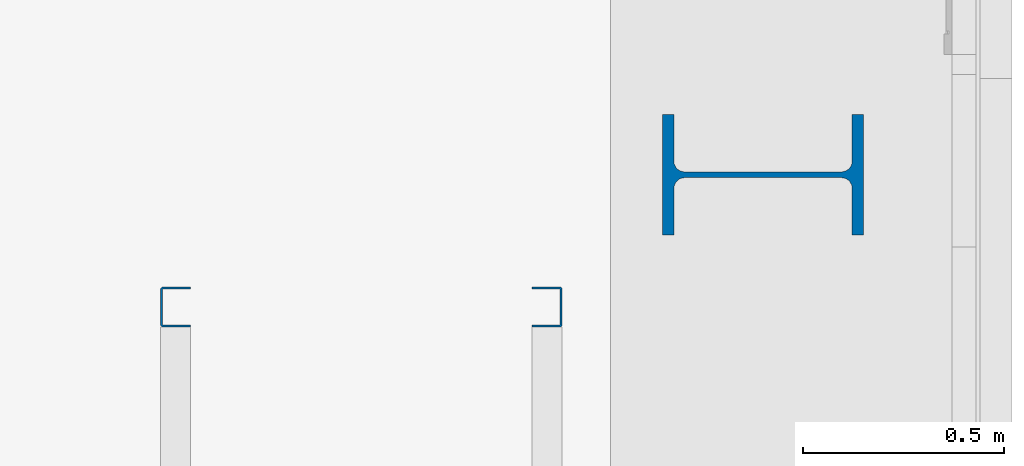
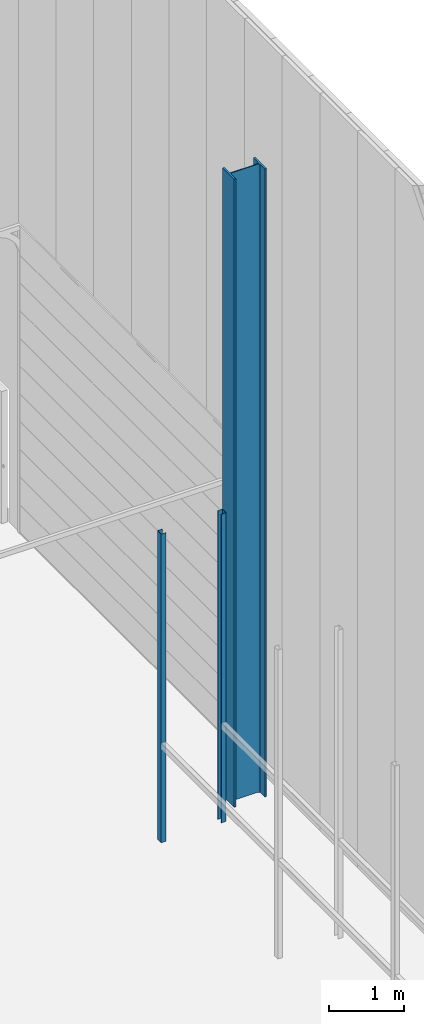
# One storey, part 43 of 302: 3 columns.
"""IFC2X3 building model written with IfcOpenShell, lengths in metres."""

from ifc_helpers import new_model, entity, si_unit, converted_unit, derived_unit, direction, frame, frame_2d, origin, place, context, subcontext, project, spatial, polyline, circle_curve, parameter, trimmed, segment, composite_curve, i_section, outline, extrude, source, transform, mapped, material, type_object, type_shapes, element, save


model = new_model("IFC2X3")

# Units and contexts
model_context = context("Model", 3, precision=1e-05, world=origin(), true_north=direction((6.12303176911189e-17, 1.0)))
body_context = subcontext(model_context, "Body", "Model", "MODEL_VIEW")
ifc_project = project(units=[si_unit("LENGTHUNIT", "METRE"), si_unit("AREAUNIT", "SQUARE_METRE"), si_unit("VOLUMEUNIT", "CUBIC_METRE"), converted_unit("PLANEANGLEUNIT", "DEGREE", entity("IfcRatioMeasure", 0.0174532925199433), si_unit("PLANEANGLEUNIT", "RADIAN"), dimensions=[0, 0, 0, 0, 0, 0, 0]), si_unit("MASSUNIT", "GRAM", prefix="KILO"), derived_unit("MASSDENSITYUNIT", [(si_unit("MASSUNIT", "GRAM", prefix="KILO"), 1), (si_unit("LENGTHUNIT", "METRE"), -3)]), derived_unit("MOMENTOFINERTIAUNIT", [(si_unit("LENGTHUNIT", "METRE"), 4)]), si_unit("TIMEUNIT", "SECOND"), si_unit("FREQUENCYUNIT", "HERTZ"), si_unit("THERMODYNAMICTEMPERATUREUNIT", "DEGREE_CELSIUS"), derived_unit("THERMALTRANSMITTANCEUNIT", [(si_unit("MASSUNIT", "GRAM", prefix="KILO"), 1), (si_unit("THERMODYNAMICTEMPERATUREUNIT", "KELVIN"), -1), (si_unit("TIMEUNIT", "SECOND"), -3)]), derived_unit("VOLUMETRICFLOWRATEUNIT", [(si_unit("LENGTHUNIT", "METRE"), 3), (si_unit("TIMEUNIT", "SECOND"), -1)]), si_unit("ELECTRICCURRENTUNIT", "AMPERE"), si_unit("ELECTRICVOLTAGEUNIT", "VOLT"), si_unit("POWERUNIT", "WATT"), si_unit("FORCEUNIT", "NEWTON", prefix="KILO"), si_unit("ILLUMINANCEUNIT", "LUX"), si_unit("LUMINOUSFLUXUNIT", "LUMEN"), si_unit("LUMINOUSINTENSITYUNIT", "CANDELA"), derived_unit("USERDEFINED", [(si_unit("MASSUNIT", "GRAM", prefix="KILO"), -1), (si_unit("LENGTHUNIT", "METRE"), -2), (si_unit("TIMEUNIT", "SECOND"), 3), (si_unit("LUMINOUSFLUXUNIT", "LUMEN"), 1)]), derived_unit("LINEARVELOCITYUNIT", [(si_unit("LENGTHUNIT", "METRE"), 1), (si_unit("TIMEUNIT", "SECOND"), -1)]), si_unit("PRESSUREUNIT", "PASCAL"), derived_unit("USERDEFINED", [(si_unit("LENGTHUNIT", "METRE"), -2), (si_unit("MASSUNIT", "GRAM", prefix="KILO"), 1), (si_unit("TIMEUNIT", "SECOND"), -2)]), derived_unit("LINEARFORCEUNIT", [(si_unit("MASSUNIT", "GRAM", prefix="KILO"), 1), (si_unit("LENGTHUNIT", "METRE"), 1), (si_unit("TIMEUNIT", "SECOND"), -2), (si_unit("LENGTHUNIT", "METRE"), -1)]), derived_unit("PLANARFORCEUNIT", [(si_unit("MASSUNIT", "GRAM", prefix="KILO"), 1), (si_unit("LENGTHUNIT", "METRE"), 1), (si_unit("TIMEUNIT", "SECOND"), -2), (si_unit("LENGTHUNIT", "METRE"), -2)])], contexts=[model_context])

# Site, building, storey
site_placement = place(None, origin())
site = spatial("IfcSite", under=ifc_project, at=site_placement, Name="Default", CompositionType="ELEMENT")
building_placement = place(site_placement, origin())
building = spatial("IfcBuilding", under=site, at=building_placement, CompositionType="ELEMENT")
storey_placement = place(building_placement, frame((0.0, 0.0, -1.3)))
storey = spatial("IfcBuildingStorey", under=building, at=storey_placement, Name="00_EG", CompositionType="ELEMENT", Elevation=-1.3)

# Columns
ifc_material = material(Name="Metall - Baustahl S235")
column_type_1 = type_object("IfcColumnType", Name="HEB Stütze:HEB 500", PredefinedType="COLUMN", material=ifc_material)
shared_shape_1 = source(origin(), body_context, "Body", "SweptSolid", [
    extrude(i_section(OverallWidth=0.3, OverallDepth=0.5, WebThickness=0.0145, FlangeThickness=0.028, FilletRadius=0.027, at=frame_2d((0.0, -2.77555756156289e-17), x_axis=(0.0, 1.0))), frame((0.0, 0.0, -0.0300000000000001), z_axis=(0.0, 0.0, 1.0), x_axis=(0.0, -1.0, 0.0)), (0.0, 0.0, 1.0), 10.175),
])
type_shapes(column_type_1, [shared_shape_1])
column_1_placement = place(storey_placement, frame((-177.890111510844, 64.928088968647, 1.3), z_axis=(0.0, 0.0, 1.0), x_axis=(0.0, -1.0, 0.0)))
element("IfcColumn", 1, at=column_1_placement, inside=storey, type_object=column_type_1, material=ifc_material, Name="HEB Stütze:HEB 500", ObjectType="HEB Stütze:HEB 500", context=body_context, shape_type="MappedRepresentation", body=[
    mapped(shared_shape_1, transform((0.0, 0.0, 0.0), scale=1.0)),
])
column_type_2 = type_object("IfcColumnType", Name="Leichter Stahl Schlossschrauben Stütze:C 100", PredefinedType="COLUMN", material=ifc_material)
shared_shape_2 = source(origin(), body_context, "Body", "SweptSolid", [
    extrude(outline(composite_curve([segment(polyline([(-0.0469749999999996, -0.0499999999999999), (0.0214500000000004, -0.0499999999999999)]), True, "CONTINUOUS"), segment(trimmed(circle_curve(frame_2d((0.0214500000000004, -0.0434249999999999), x_axis=(0.0, -1.0)), 0.00657500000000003), [parameter(0.0)], [parameter(89.9999999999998)], True, "PARAMETER"), True, "CONTINUOUS"), segment(polyline([(0.0280250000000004, -0.0434249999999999), (0.0280250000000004, 0.0434250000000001)]), True, "CONTINUOUS"), segment(trimmed(circle_curve(frame_2d((0.0214500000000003, 0.0434250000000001), x_axis=(1.0, 0.0)), 0.0065750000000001), [parameter(0.0)], [parameter(89.9999999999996)], True, "PARAMETER"), True, "CONTINUOUS"), segment(polyline([(0.0214500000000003, 0.0500000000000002), (-0.0469750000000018, 0.0500000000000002)]), True, "CONTINUOUS"), segment(polyline([(-0.0469750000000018, 0.0500000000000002), (-0.0469750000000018, 0.0450000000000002)]), True, "CONTINUOUS"), segment(polyline([(-0.0469750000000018, 0.0450000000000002), (0.0214500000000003, 0.0450000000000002)]), True, "CONTINUOUS"), segment(trimmed(circle_curve(frame_2d((0.0214500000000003, 0.0434249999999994), x_axis=(0.0, 1.0)), 0.00157500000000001), [parameter(269.999999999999)], [parameter(0.0)], True, "PARAMETER"), False, "CONTINUOUS"), segment(polyline([(0.0230250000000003, 0.0434249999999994), (0.0230250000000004, -0.0434249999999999)]), True, "CONTINUOUS"), segment(trimmed(circle_curve(frame_2d((0.0214500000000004, -0.0434249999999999), x_axis=(1.0, 0.0)), 0.00157500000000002), [parameter(270.0)], [parameter(0.0)], True, "PARAMETER"), False, "CONTINUOUS"), segment(polyline([(0.0214500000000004, -0.0449999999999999), (-0.0469749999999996, -0.0449999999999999)]), True, "CONTINUOUS"), segment(polyline([(-0.0469749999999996, -0.0449999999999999), (-0.0469749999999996, -0.0499999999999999)]), True, "CONTINUOUS")], self_intersect=False)), frame((0.0499999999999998, 0.0280250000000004, -0.0300000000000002), z_axis=(0.0, 0.0, 1.0), x_axis=(0.0, -1.0, 0.0)), (0.0, 0.0, 1.0), 5.0),
])
type_shapes(column_type_2, [shared_shape_2])
column_2_placement = place(storey_placement, frame((-179.390111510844, 64.6488562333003, 1.3), z_axis=(0.0, 0.0, 1.0), x_axis=(0.0, -1.0, 0.0)))
element("IfcColumn", 2, at=column_2_placement, inside=storey, type_object=column_type_2, material=ifc_material, Name="Leichter Stahl Schlossschrauben Stütze:C 100", ObjectType="Leichter Stahl Schlossschrauben Stütze:C 100", context=body_context, shape_type="MappedRepresentation", body=[
    mapped(shared_shape_2, transform((0.0, 0.0, 0.0), scale=1.0)),
])
column_type_3 = type_object("IfcColumnType", Name="Leichter Stahl Schlossschrauben Stütze:C 100", PredefinedType="COLUMN", material=ifc_material)
shared_shape_3 = source(origin(), body_context, "Body", "SweptSolid", [
    extrude(outline(composite_curve([segment(polyline([(-0.0214500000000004, -0.0499999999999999), (0.0469749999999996, -0.0499999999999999)]), True, "CONTINUOUS"), segment(polyline([(0.0469749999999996, -0.0499999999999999), (0.0469749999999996, -0.0449999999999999)]), True, "CONTINUOUS"), segment(polyline([(0.0469749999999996, -0.0449999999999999), (-0.0214500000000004, -0.045)]), True, "CONTINUOUS"), segment(trimmed(circle_curve(frame_2d((-0.0214500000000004, -0.043425), x_axis=(0.0, -1.0)), 0.00157500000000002), [parameter(270.0)], [parameter(0.0)], True, "PARAMETER"), False, "CONTINUOUS"), segment(polyline([(-0.0230250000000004, -0.0434249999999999), (-0.0230250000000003, 0.0434249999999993)]), True, "CONTINUOUS"), segment(trimmed(circle_curve(frame_2d((-0.0214500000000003, 0.0434249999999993), x_axis=(-1.0, 0.0)), 0.00157500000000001), [parameter(269.999999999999)], [parameter(0.0)], True, "PARAMETER"), False, "CONTINUOUS"), segment(polyline([(-0.0214500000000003, 0.0450000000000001), (0.0469750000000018, 0.0450000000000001)]), True, "CONTINUOUS"), segment(polyline([(0.0469750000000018, 0.0450000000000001), (0.0469750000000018, 0.0500000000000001)]), True, "CONTINUOUS"), segment(polyline([(0.0469750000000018, 0.0500000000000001), (-0.0214500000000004, 0.0500000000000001)]), True, "CONTINUOUS"), segment(trimmed(circle_curve(frame_2d((-0.0214500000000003, 0.043425), x_axis=(0.0, 1.0)), 0.0065750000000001), [parameter(0.0)], [parameter(89.9999999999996)], True, "PARAMETER"), True, "CONTINUOUS"), segment(polyline([(-0.0280250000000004, 0.043425), (-0.0280250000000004, -0.043425)]), True, "CONTINUOUS"), segment(trimmed(circle_curve(frame_2d((-0.0214500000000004, -0.0434249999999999), x_axis=(-1.0, 0.0)), 0.00657500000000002), [parameter(0.0)], [parameter(89.9999999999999)], True, "PARAMETER"), True, "CONTINUOUS")], self_intersect=False)), frame((0.0499999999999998, -0.0280250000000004, -0.0300000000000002), z_axis=(0.0, 0.0, 1.0), x_axis=(0.0, -1.0, 0.0)), (0.0, 0.0, 1.0), 5.0),
])
type_shapes(column_type_3, [shared_shape_3])
column_3_placement = place(storey_placement, frame((-178.390111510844, 64.6488562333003, 1.3), z_axis=(0.0, 0.0, 1.0), x_axis=(0.0, -1.0, 0.0)))
element("IfcColumn", 3, at=column_3_placement, inside=storey, type_object=column_type_3, material=ifc_material, Name="Leichter Stahl Schlossschrauben Stütze:C 100", ObjectType="Leichter Stahl Schlossschrauben Stütze:C 100", context=body_context, shape_type="MappedRepresentation", body=[
    mapped(shared_shape_3, transform((0.0, 0.0, 0.0), scale=1.0)),
])

save(model, "model.ifc")
